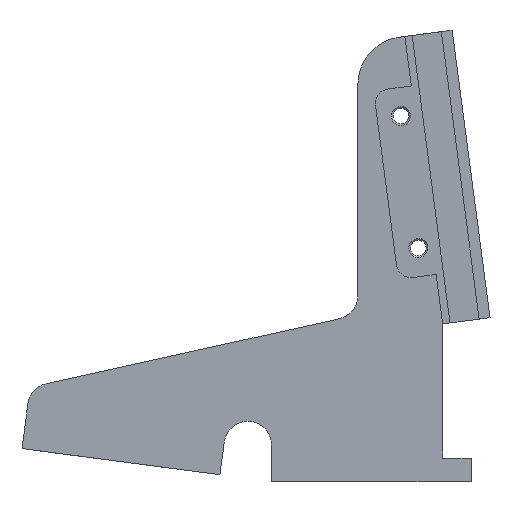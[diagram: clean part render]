
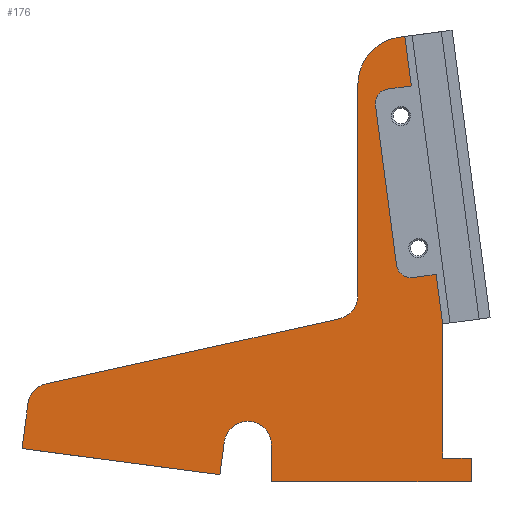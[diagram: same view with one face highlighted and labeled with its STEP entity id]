
A CAD part, left-side view. The second image highlights one B-rep face of the part: STEP entity #176.
In plain terms, the highlighted planar face has unit normal (-1, 0, 0).
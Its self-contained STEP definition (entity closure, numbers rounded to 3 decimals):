
#143=FACE_OUTER_BOUND('',#491,.T.);
#176=ADVANCED_FACE('',(#143),#235,.F.);
#235=PLANE('',#1115);
#263=LINE('',#1532,#345);
#283=LINE('',#1578,#365);
#285=LINE('',#1582,#367);
#286=LINE('',#1586,#368);
#287=LINE('',#1590,#369);
#288=LINE('',#1594,#370);
#289=LINE('',#1595,#371);
#290=LINE('',#1599,#372);
#291=LINE('',#1601,#373);
#292=LINE('',#1603,#374);
#293=LINE('',#1605,#375);
#294=LINE('',#1607,#376);
#295=LINE('',#1609,#377);
#296=LINE('',#1611,#378);
#297=LINE('',#1615,#379);
#298=LINE('',#1619,#380);
#345=VECTOR('',#1234,1.);
#365=VECTOR('',#1262,1.);
#367=VECTOR('',#1266,1.);
#368=VECTOR('',#1269,1.);
#369=VECTOR('',#1272,1.);
#370=VECTOR('',#1275,1.);
#371=VECTOR('',#1276,1.);
#372=VECTOR('',#1279,1.);
#373=VECTOR('',#1280,1.);
#374=VECTOR('',#1281,1.);
#375=VECTOR('',#1282,1.);
#376=VECTOR('',#1283,1.);
#377=VECTOR('',#1284,1.);
#378=VECTOR('',#1285,1.);
#379=VECTOR('',#1288,1.);
#380=VECTOR('',#1291,1.);
#491=EDGE_LOOP('',(#600,#601,#602,#603,#604,#605,#606,#607,#608,#609,#610,
#611,#612,#613,#614,#615,#616,#617,#618,#619,#620,#621));
#600=ORIENTED_EDGE('',*,*,#941,.F.);
#601=ORIENTED_EDGE('',*,*,#939,.T.);
#602=ORIENTED_EDGE('',*,*,#942,.T.);
#603=ORIENTED_EDGE('',*,*,#943,.T.);
#604=ORIENTED_EDGE('',*,*,#944,.T.);
#605=ORIENTED_EDGE('',*,*,#945,.T.);
#606=ORIENTED_EDGE('',*,*,#946,.T.);
#607=ORIENTED_EDGE('',*,*,#947,.T.);
#608=ORIENTED_EDGE('',*,*,#917,.T.);
#609=ORIENTED_EDGE('',*,*,#948,.T.);
#610=ORIENTED_EDGE('',*,*,#949,.T.);
#611=ORIENTED_EDGE('',*,*,#950,.T.);
#612=ORIENTED_EDGE('',*,*,#951,.T.);
#613=ORIENTED_EDGE('',*,*,#952,.T.);
#614=ORIENTED_EDGE('',*,*,#953,.T.);
#615=ORIENTED_EDGE('',*,*,#954,.T.);
#616=ORIENTED_EDGE('',*,*,#955,.F.);
#617=ORIENTED_EDGE('',*,*,#956,.F.);
#618=ORIENTED_EDGE('',*,*,#957,.T.);
#619=ORIENTED_EDGE('',*,*,#958,.F.);
#620=ORIENTED_EDGE('',*,*,#959,.T.);
#621=ORIENTED_EDGE('',*,*,#960,.F.);
#822=VERTEX_POINT('',#1531);
#823=VERTEX_POINT('',#1533);
#844=VERTEX_POINT('',#1577);
#845=VERTEX_POINT('',#1579);
#846=VERTEX_POINT('',#1583);
#847=VERTEX_POINT('',#1585);
#848=VERTEX_POINT('',#1587);
#849=VERTEX_POINT('',#1589);
#850=VERTEX_POINT('',#1591);
#851=VERTEX_POINT('',#1593);
#852=VERTEX_POINT('',#1596);
#853=VERTEX_POINT('',#1598);
#854=VERTEX_POINT('',#1600);
#855=VERTEX_POINT('',#1602);
#856=VERTEX_POINT('',#1604);
#857=VERTEX_POINT('',#1606);
#858=VERTEX_POINT('',#1608);
#859=VERTEX_POINT('',#1610);
#860=VERTEX_POINT('',#1612);
#861=VERTEX_POINT('',#1614);
#862=VERTEX_POINT('',#1616);
#863=VERTEX_POINT('',#1618);
#917=EDGE_CURVE('',#823,#822,#263,.T.);
#939=EDGE_CURVE('',#845,#844,#283,.T.);
#941=EDGE_CURVE('',#845,#846,#285,.T.);
#942=EDGE_CURVE('',#844,#847,#1052,.T.);
#943=EDGE_CURVE('',#847,#848,#286,.T.);
#944=EDGE_CURVE('',#848,#849,#1053,.T.);
#945=EDGE_CURVE('',#849,#850,#287,.T.);
#946=EDGE_CURVE('',#850,#851,#1054,.T.);
#947=EDGE_CURVE('',#851,#823,#288,.T.);
#948=EDGE_CURVE('',#822,#852,#289,.T.);
#949=EDGE_CURVE('',#852,#853,#1055,.T.);
#950=EDGE_CURVE('',#853,#854,#290,.T.);
#951=EDGE_CURVE('',#854,#855,#291,.T.);
#952=EDGE_CURVE('',#855,#856,#292,.T.);
#953=EDGE_CURVE('',#856,#857,#293,.T.);
#954=EDGE_CURVE('',#857,#858,#294,.T.);
#955=EDGE_CURVE('',#859,#858,#295,.T.);
#956=EDGE_CURVE('',#860,#859,#296,.T.);
#957=EDGE_CURVE('',#860,#861,#1056,.T.);
#958=EDGE_CURVE('',#862,#861,#297,.T.);
#959=EDGE_CURVE('',#862,#863,#1057,.T.);
#960=EDGE_CURVE('',#846,#863,#298,.T.);
#1052=CIRCLE('',#1109,10.);
#1053=CIRCLE('',#1110,5.);
#1054=CIRCLE('',#1111,5.);
#1055=CIRCLE('',#1112,5.);
#1056=CIRCLE('',#1113,3.);
#1057=CIRCLE('',#1114,3.);
#1109=AXIS2_PLACEMENT_3D('',#1584,#1267,#1268);
#1110=AXIS2_PLACEMENT_3D('',#1588,#1270,#1271);
#1111=AXIS2_PLACEMENT_3D('',#1592,#1273,#1274);
#1112=AXIS2_PLACEMENT_3D('',#1597,#1277,#1278);
#1113=AXIS2_PLACEMENT_3D('',#1613,#1286,#1287);
#1114=AXIS2_PLACEMENT_3D('',#1617,#1289,#1290);
#1115=AXIS2_PLACEMENT_3D('',#1620,#1292,#1293);
#1234=DIRECTION('',(0.,-0.991,-0.131));
#1262=DIRECTION('',(0.,0.991,-0.131));
#1266=DIRECTION('',(0.,-0.131,-0.991));
#1267=DIRECTION('',(-1.,0.,0.));
#1268=DIRECTION('',(0.,-0.05,-0.999));
#1269=DIRECTION('',(0.,0.,-1.));
#1270=DIRECTION('',(1.,0.,0.));
#1271=DIRECTION('',(0.,-0.05,-0.999));
#1272=DIRECTION('',(0.,0.976,-0.216));
#1273=DIRECTION('',(-1.,0.,0.));
#1274=DIRECTION('',(0.,-0.05,-0.999));
#1275=DIRECTION('',(0.,0.131,-0.991));
#1276=DIRECTION('',(0.,-0.131,0.991));
#1277=DIRECTION('',(1.,0.,0.));
#1278=DIRECTION('',(0.,0.,1.));
#1279=DIRECTION('',(0.,0.,-1.));
#1280=DIRECTION('',(0.,-1.,0.));
#1281=DIRECTION('',(0.,0.,1.));
#1282=DIRECTION('',(0.,1.,0.));
#1283=DIRECTION('',(0.,0.,1.));
#1284=DIRECTION('',(0.,-0.131,-0.991));
#1285=DIRECTION('',(0.,-0.991,0.131));
#1286=DIRECTION('',(1.,0.,0.));
#1287=DIRECTION('',(0.,-0.05,-0.999));
#1288=DIRECTION('',(0.,-0.131,-0.991));
#1289=DIRECTION('',(1.,0.,0.));
#1290=DIRECTION('',(0.,-0.05,-0.999));
#1291=DIRECTION('',(0.,0.991,-0.131));
#1292=DIRECTION('',(1.,0.,0.));
#1293=DIRECTION('',(0.,-0.05,-0.999));
#1531=CARTESIAN_POINT('',(763.,55.908,-400.457));
#1532=CARTESIAN_POINT('',(763.,97.549,-394.975));
#1533=CARTESIAN_POINT('',(763.,97.549,-394.975));
#1577=CARTESIAN_POINT('',(763.,18.182,-308.421));
#1578=CARTESIAN_POINT('',(763.,7.047,-306.955));
#1579=CARTESIAN_POINT('',(763.,17.01,-308.267));
#1582=CARTESIAN_POINT('',(763.,17.01,-308.267));
#1583=CARTESIAN_POINT('',(763.,15.639,-318.677));
#1584=CARTESIAN_POINT('',(763.,16.876,-318.336));
#1585=CARTESIAN_POINT('',(763.,26.876,-318.336));
#1586=CARTESIAN_POINT('',(763.,26.876,-309.566));
#1587=CARTESIAN_POINT('',(763.,26.876,-362.781));
#1588=CARTESIAN_POINT('',(763.,31.876,-362.781));
#1589=CARTESIAN_POINT('',(763.,30.794,-367.663));
#1590=CARTESIAN_POINT('',(763.,26.876,-366.794));
#1591=CARTESIAN_POINT('',(763.,92.434,-381.328));
#1592=CARTESIAN_POINT('',(763.,91.352,-386.21));
#1593=CARTESIAN_POINT('',(763.,96.309,-385.557));
#1594=CARTESIAN_POINT('',(763.,95.852,-382.086));
#1595=CARTESIAN_POINT('',(763.,55.908,-400.457));
#1596=CARTESIAN_POINT('',(763.,55.005,-393.593));
#1597=CARTESIAN_POINT('',(763.,50.047,-394.245));
#1598=CARTESIAN_POINT('',(763.,45.047,-394.245));
#1599=CARTESIAN_POINT('',(763.,45.047,-394.245));
#1600=CARTESIAN_POINT('',(763.,45.047,-401.955));
#1601=CARTESIAN_POINT('',(763.,45.047,-401.955));
#1602=CARTESIAN_POINT('',(763.,3.047,-401.955));
#1603=CARTESIAN_POINT('',(763.,3.047,-401.955));
#1604=CARTESIAN_POINT('',(763.,3.047,-396.955));
#1605=CARTESIAN_POINT('',(763.,3.047,-396.955));
#1606=CARTESIAN_POINT('',(763.,9.047,-396.955));
#1607=CARTESIAN_POINT('',(763.,9.047,-396.955));
#1608=CARTESIAN_POINT('',(763.,9.047,-368.745));
#1609=CARTESIAN_POINT('',(763.,10.418,-358.335));
#1610=CARTESIAN_POINT('',(763.,10.418,-358.335));
#1611=CARTESIAN_POINT('',(763.,18.35,-359.379));
#1612=CARTESIAN_POINT('',(763.,15.375,-358.987));
#1613=CARTESIAN_POINT('',(763.,15.767,-356.013));
#1614=CARTESIAN_POINT('',(763.,18.741,-356.405));
#1615=CARTESIAN_POINT('',(763.,23.571,-319.721));
#1616=CARTESIAN_POINT('',(763.,23.179,-322.695));
#1617=CARTESIAN_POINT('',(763.,20.205,-322.304));
#1618=CARTESIAN_POINT('',(763.,20.596,-319.33));
#1619=CARTESIAN_POINT('',(763.,15.639,-318.677));
#1620=CARTESIAN_POINT('',(763.,50.047,-394.245));
